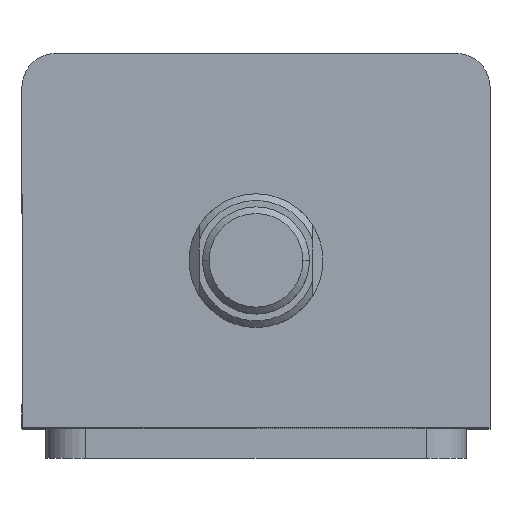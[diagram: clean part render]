
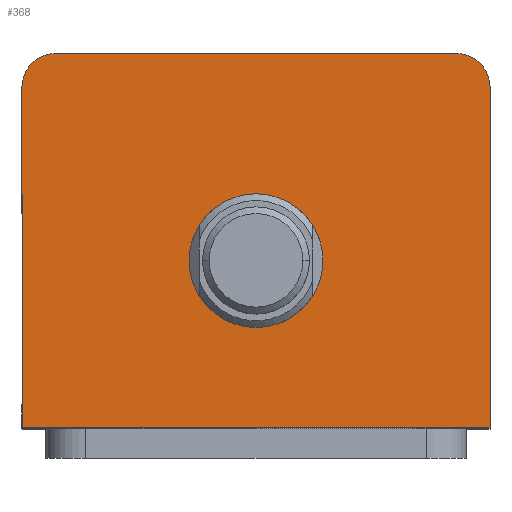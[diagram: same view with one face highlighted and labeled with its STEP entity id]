
A CAD part, top view. The second image highlights one B-rep face of the part: STEP entity #368.
In plain terms, the highlighted planar face has unit normal (0, 0, 1).
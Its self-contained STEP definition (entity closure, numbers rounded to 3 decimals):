
#95 = VERTEX_POINT ( 'NONE', #2794 ) ;
#101 = VERTEX_POINT ( 'NONE', #2787 ) ;
#109 = VERTEX_POINT ( 'NONE', #2751 ) ;
#114 = VERTEX_POINT ( 'NONE', #2753 ) ;
#123 = VERTEX_POINT ( 'NONE', #2742 ) ;
#131 = VERTEX_POINT ( 'NONE', #2703 ) ;
#139 = VERTEX_POINT ( 'NONE', #2691 ) ;
#300 = FACE_BOUND ( 'NONE', #1033, .T. ) ;
#309 = FACE_OUTER_BOUND ( 'NONE', #1069, .T. ) ;
#338 = CIRCLE ( 'NONE', #600, 5. ) ;
#347 = CIRCLE ( 'NONE', #599, 10. ) ;
#355 = CIRCLE ( 'NONE', #591, 5. ) ;
#368 = ADVANCED_FACE ( 'NONE', ( #300, #309 ), #2610, .T. ) ;
#371 = LINE ( 'NONE', #2397, #373 ) ;
#373 = VECTOR ( 'NONE', #2396, 1000. ) ;
#560 = AXIS2_PLACEMENT_3D ( 'NONE', #1973, #1972, #1971 ) ;
#591 = AXIS2_PLACEMENT_3D ( 'NONE', #2431, #2429, #2428 ) ;
#599 = AXIS2_PLACEMENT_3D ( 'NONE', #2462, #2461, #2460 ) ;
#600 = AXIS2_PLACEMENT_3D ( 'NONE', #2467, #2466, #2463 ) ;
#617 = AXIS2_PLACEMENT_3D ( 'NONE', #2619, #2604, #2603 ) ;
#958 = ORIENTED_EDGE ( 'NONE', *, *, #2229, .T. ) ;
#959 = ORIENTED_EDGE ( 'NONE', *, *, #2046, .T. ) ;
#960 = ORIENTED_EDGE ( 'NONE', *, *, #1995, .T. ) ;
#961 = ORIENTED_EDGE ( 'NONE', *, *, #2124, .T. ) ;
#1033 = EDGE_LOOP ( 'NONE', ( #3040, #3039 ) ) ;
#1069 = EDGE_LOOP ( 'NONE', ( #3036, #3024, #961, #960, #959, #958 ) ) ;
#1076 = VERTEX_POINT ( 'NONE', #2512 ) ;
#1414 = LINE ( 'NONE', #1856, #1417 ) ;
#1417 = VECTOR ( 'NONE', #1847, 1000. ) ;
#1458 = LINE ( 'NONE', #1724, #1461 ) ;
#1461 = VECTOR ( 'NONE', #1722, 1000. ) ;
#1464 = CIRCLE ( 'NONE', #560, 10. ) ;
#1587 = LINE ( 'NONE', #1693, #1589 ) ;
#1589 = VECTOR ( 'NONE', #1694, 1000. ) ;
#1693 = CARTESIAN_POINT ( 'NONE',  ( -35., -28., 134. ) ) ;
#1694 = DIRECTION ( 'NONE',  ( 1., 0., 0. ) ) ;
#1722 = DIRECTION ( 'NONE',  ( 0., 1., 0. ) ) ;
#1724 = CARTESIAN_POINT ( 'NONE',  ( 35., 28., 134. ) ) ;
#1847 = DIRECTION ( 'NONE',  ( -1., 0., 0. ) ) ;
#1856 = CARTESIAN_POINT ( 'NONE',  ( -35., 28., 134. ) ) ;
#1971 = DIRECTION ( 'NONE',  ( 1., 0., 0. ) ) ;
#1972 = DIRECTION ( 'NONE',  ( 0., 0., 1. ) ) ;
#1973 = CARTESIAN_POINT ( 'NONE',  ( 0., -3., 134. ) ) ;
#1995 = EDGE_CURVE ( 'NONE', #123, #114, #338, .T. ) ;
#1997 = EDGE_CURVE ( 'NONE', #101, #95, #347, .T. ) ;
#2019 = EDGE_CURVE ( 'NONE', #109, #1076, #355, .T. ) ;
#2046 = EDGE_CURVE ( 'NONE', #114, #131, #371, .T. ) ;
#2124 = EDGE_CURVE ( 'NONE', #1076, #123, #1414, .T. ) ;
#2147 = EDGE_CURVE ( 'NONE', #139, #109, #1458, .T. ) ;
#2154 = EDGE_CURVE ( 'NONE', #95, #101, #1464, .T. ) ;
#2229 = EDGE_CURVE ( 'NONE', #131, #139, #1587, .T. ) ;
#2396 = DIRECTION ( 'NONE',  ( 0., -1., 0. ) ) ;
#2397 = CARTESIAN_POINT ( 'NONE',  ( -35., 28., 134. ) ) ;
#2428 = DIRECTION ( 'NONE',  ( 1., 0., 0. ) ) ;
#2429 = DIRECTION ( 'NONE',  ( 0., 0., 1. ) ) ;
#2431 = CARTESIAN_POINT ( 'NONE',  ( 30., 23., 134. ) ) ;
#2460 = DIRECTION ( 'NONE',  ( 1., 0., 0. ) ) ;
#2461 = DIRECTION ( 'NONE',  ( 0., 0., 1. ) ) ;
#2462 = CARTESIAN_POINT ( 'NONE',  ( 0., -3., 134. ) ) ;
#2463 = DIRECTION ( 'NONE',  ( 1., 0., 0. ) ) ;
#2466 = DIRECTION ( 'NONE',  ( 0., 0., 1. ) ) ;
#2467 = CARTESIAN_POINT ( 'NONE',  ( -30., 23., 134. ) ) ;
#2512 = CARTESIAN_POINT ( 'NONE',  ( 30., 28., 134. ) ) ;
#2603 = DIRECTION ( 'NONE',  ( 1., 0., 0. ) ) ;
#2604 = DIRECTION ( 'NONE',  ( 0., 0., 1. ) ) ;
#2610 = PLANE ( 'NONE',  #617 ) ;
#2619 = CARTESIAN_POINT ( 'NONE',  ( 0., 0., 134. ) ) ;
#2691 = CARTESIAN_POINT ( 'NONE',  ( 35., -28., 134. ) ) ;
#2703 = CARTESIAN_POINT ( 'NONE',  ( -35., -28., 134. ) ) ;
#2742 = CARTESIAN_POINT ( 'NONE',  ( -30., 28., 134. ) ) ;
#2751 = CARTESIAN_POINT ( 'NONE',  ( 35., 23., 134. ) ) ;
#2753 = CARTESIAN_POINT ( 'NONE',  ( -35., 23., 134. ) ) ;
#2787 = CARTESIAN_POINT ( 'NONE',  ( -10., -3., 134. ) ) ;
#2794 = CARTESIAN_POINT ( 'NONE',  ( 10., -3., 134. ) ) ;
#3024 = ORIENTED_EDGE ( 'NONE', *, *, #2019, .T. ) ;
#3036 = ORIENTED_EDGE ( 'NONE', *, *, #2147, .T. ) ;
#3039 = ORIENTED_EDGE ( 'NONE', *, *, #1997, .F. ) ;
#3040 = ORIENTED_EDGE ( 'NONE', *, *, #2154, .F. ) ;
